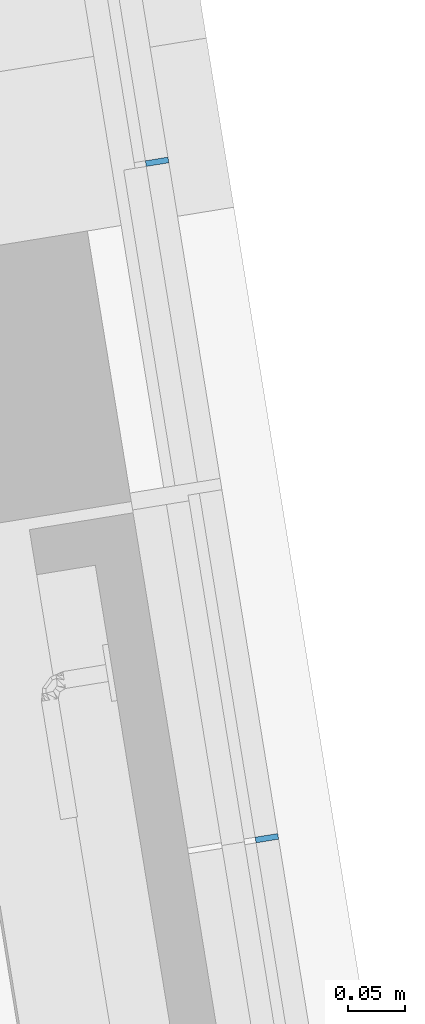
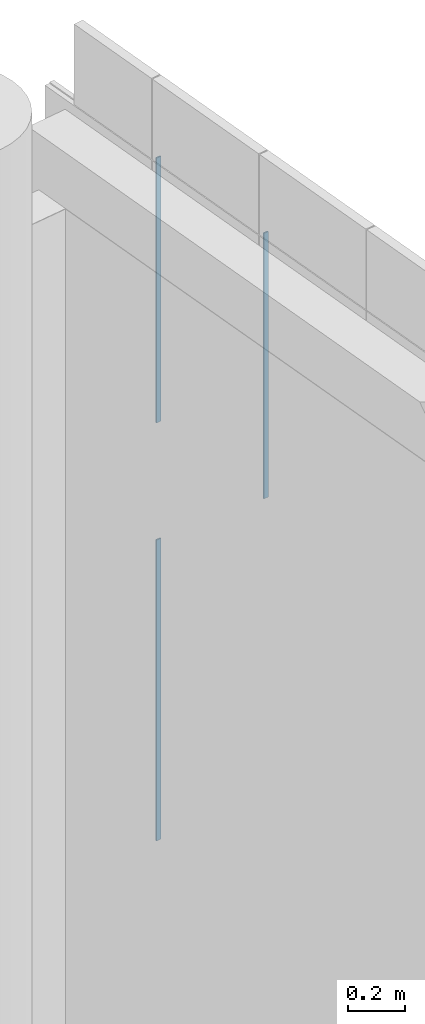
# One storey, part 5 of 38: 3 members, 1 element without a shape of its own.
"""IFC2X3 building model written with IfcOpenShell, lengths in millimetres."""

from ifc_helpers import new_model, entity, si_unit, converted_unit, derived_unit, direction, frame, origin, origin_with_axes, origin_2d_with_axis, place, context, subcontext, project, spatial, rectangle, extrude, source, transform, mapped, material, type_object, element, aggregate, save


model = new_model("IFC2X3")

# Units and contexts
model_context = context("Model", 3, precision=0.01, world=origin(), true_north=direction((6.12323399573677e-17, 1.0)))
plan_context = context("Plan", 3, precision=1e-05, world=origin_with_axes())
body_context = subcontext(model_context, "Body", "Model", "MODEL_VIEW")
ifc_project = project(units=[converted_unit("PLANEANGLEUNIT", "DEGREE", entity("IfcPositiveLengthMeasure", 0.0174532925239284), si_unit("PLANEANGLEUNIT", "RADIAN"), dimensions=[0, 0, 0, 0, 0, 0, 0]), si_unit("AREAUNIT", "SQUARE_METRE"), si_unit("LENGTHUNIT", "METRE", prefix="MILLI"), si_unit("MASSUNIT", "GRAM", prefix="KILO"), si_unit("POWERUNIT", "WATT"), si_unit("PRESSUREUNIT", "PASCAL", prefix="KILO"), si_unit("FORCEUNIT", "NEWTON", prefix="KILO"), si_unit("ELECTRICVOLTAGEUNIT", "VOLT"), si_unit("ELECTRICCURRENTUNIT", "AMPERE"), si_unit("THERMODYNAMICTEMPERATUREUNIT", "DEGREE_CELSIUS"), si_unit("TIMEUNIT", "SECOND"), si_unit("VOLUMEUNIT", "CUBIC_METRE"), derived_unit("LINEARVELOCITYUNIT", [(si_unit("LENGTHUNIT", "METRE"), 1), (si_unit("TIMEUNIT", "SECOND"), -1)]), derived_unit("VOLUMETRICFLOWRATEUNIT", [(si_unit("VOLUMEUNIT", "CUBIC_METRE"), 1), (si_unit("TIMEUNIT", "SECOND"), -1)]), derived_unit("THERMALTRANSMITTANCEUNIT", [(si_unit("POWERUNIT", "WATT"), 1), (si_unit("THERMODYNAMICTEMPERATUREUNIT", "KELVIN"), -1), (si_unit("AREAUNIT", "SQUARE_METRE"), -1)]), derived_unit("SOUNDPRESSUREUNIT", [(si_unit("PRESSUREUNIT", "PASCAL"), 1)])], contexts=[model_context, plan_context])

# Site, building, storey
site_placement = place(None, frame((-0.00071070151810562, 0.00438415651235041, 0.0), z_axis=(0.0, 0.0, 1.0), x_axis=(-0.160236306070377, 0.987078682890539, 0.0)))
site = spatial("IfcSite", under=ifc_project, at=site_placement, Name="Default", CompositionType="ELEMENT")
building_placement = place(site_placement, origin_with_axes())
building = spatial("IfcBuilding", under=site, at=building_placement, Name="TOO", CompositionType="ELEMENT")
storey_placement = place(building_placement, frame((0.0, 0.0, 50999.9999999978), z_axis=(0.0, 0.0, 1.0), x_axis=(1.0, 0.0, 0.0)))
storey = spatial("IfcBuildingStorey", under=building, at=storey_placement, Name="Nivå D-H01", CompositionType="ELEMENT", Elevation=50999.9999999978)

# Curtain wall, members
curtain_wall_type = type_object("IfcCurtainWallType", Name="Curtain Wall:Curtain Wall Standard (Bruk kun denne)", PredefinedType="NOTDEFINED")
curtain_wall_placement = place(storey_placement, frame((0.0, 0.0, -50999.9999999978), z_axis=(0.0, 0.0, 1.0), x_axis=(1.0, 0.0, 0.0)))
curtain_wall = element("IfcCurtainWall", 1, at=curtain_wall_placement, inside=storey, type_object=curtain_wall_type, Name="Curtain Wall:Curtain Wall Standard (Bruk kun denne)", ObjectType="Curtain Wall:Curtain Wall Standard (Bruk kun denne)")
ifc_material = material(Name="Rubber")
member_type_1 = type_object("IfcMemberType", Name="Rectangular Mullion:A246 - Fuge 5mm L09", PredefinedType="MULLION", material=ifc_material)
shared_shape_1 = source(origin(), body_context, "Body", "SweptSolid", [
    extrude(rectangle(XDim=5.0, YDim=20.0, at=origin_2d_with_axis()), frame((0.0, 10.0, -1147.50000000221), z_axis=(0.0, 0.0, 1.0), x_axis=(-1.0, 0.0, 0.0)), (0.0, 0.0, 1.0), 1147.50000000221),
])
member_1_placement = place(curtain_wall_placement, frame((778977.619644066, -604232.480498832, 53702.4999999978), z_axis=(0.0, 0.0, -1.0), x_axis=(-1.0, 0.0, 0.0)))
member_1 = element("IfcMember", 2, at=member_1_placement, type_object=member_type_1, material=ifc_material, Name="Rectangular Mullion:A246 - Fuge 5mm L09", ObjectType="Rectangular Mullion:A246 - Fuge 5mm L09", context=body_context, shape_type="MappedRepresentation", body=[
    mapped(shared_shape_1, transform((0.0, 0.0, 0.0), scale=1.0)),
])
member_type_2 = type_object("IfcMemberType", Name="Rectangular Mullion:A246 - Fuge 5mm L09", PredefinedType="MULLION", material=ifc_material)
shared_shape_2 = source(origin(), body_context, "Body", "SweptSolid", [
    extrude(rectangle(XDim=5.0, YDim=20.0, at=origin_2d_with_axis()), frame((0.0, 10.0, -1145.00000000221), z_axis=(0.0, 0.0, 1.0), x_axis=(-1.0, 0.0, 0.0)), (0.0, 0.0, 1.0), 1145.00000000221),
])
member_2_placement = place(curtain_wall_placement, frame((779577.619644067, -604232.480498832, 53704.9999999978), z_axis=(0.0, 0.0, -1.0), x_axis=(-1.0, 0.0, 0.0)))
member_2 = element("IfcMember", 3, at=member_2_placement, type_object=member_type_2, material=ifc_material, Name="Rectangular Mullion:A246 - Fuge 5mm L09", ObjectType="Rectangular Mullion:A246 - Fuge 5mm L09", context=body_context, shape_type="MappedRepresentation", body=[
    mapped(shared_shape_2, transform((0.0, 0.0, 0.0), scale=1.0)),
])
member_type_3 = type_object("IfcMemberType", Name="Rectangular Mullion:A246 - Fuge 5mm L09", PredefinedType="MULLION", material=ifc_material)
shared_shape_3 = source(origin(), body_context, "Body", "SweptSolid", [
    extrude(rectangle(XDim=5.0, YDim=20.0, at=origin_2d_with_axis()), frame((0.0, 10.0, -1300.0), z_axis=(0.0, 0.0, 1.0), x_axis=(-1.0, 0.0, 0.0)), (0.0, 0.0, 1.0), 1300.0),
])
member_3_placement = place(curtain_wall_placement, frame((779577.619644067, -604232.480498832, 51899.9999999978), z_axis=(0.0, 0.0, -1.0), x_axis=(-1.0, 0.0, 0.0)))
member_3 = element("IfcMember", 4, at=member_3_placement, type_object=member_type_3, material=ifc_material, Name="Rectangular Mullion:A246 - Fuge 5mm L09", ObjectType="Rectangular Mullion:A246 - Fuge 5mm L09", context=body_context, shape_type="MappedRepresentation", body=[
    mapped(shared_shape_3, transform((0.0, 0.0, 0.0), scale=1.0)),
])
aggregate(curtain_wall, [member_2, member_3, member_1])

save(model, "model.ifc")
